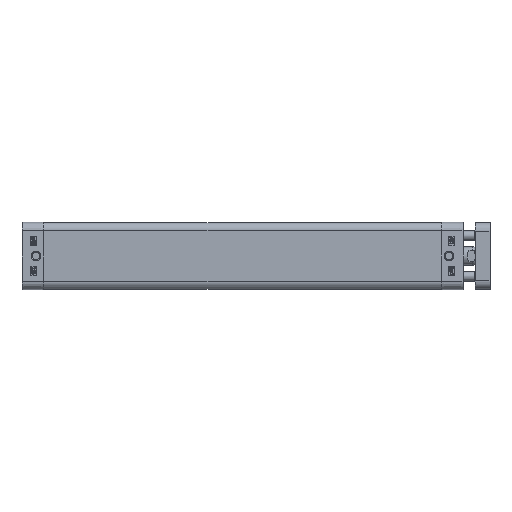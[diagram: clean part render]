
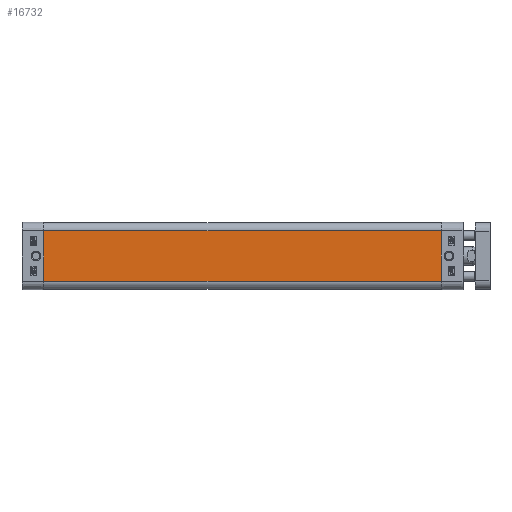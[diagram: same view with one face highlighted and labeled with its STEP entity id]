
A CAD part, left-side view. The second image highlights one B-rep face of the part: STEP entity #16732.
In plain terms, the highlighted planar face has unit normal (-1, 0, 0).
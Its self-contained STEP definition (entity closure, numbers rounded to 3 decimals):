
#548=PLANE('',#17743);
#4046=ORIENTED_EDGE('',*,*,#5968,.T.);
#4047=ORIENTED_EDGE('',*,*,#6134,.T.);
#4048=ORIENTED_EDGE('',*,*,#6135,.T.);
#4049=ORIENTED_EDGE('',*,*,#6024,.F.);
#5968=EDGE_CURVE('',#7302,#7303,#8394,.T.);
#6024=EDGE_CURVE('',#7302,#7358,#8422,.T.);
#6134=EDGE_CURVE('',#7303,#7413,#8504,.T.);
#6135=EDGE_CURVE('',#7413,#7358,#8505,.T.);
#7302=VERTEX_POINT('',#25102);
#7303=VERTEX_POINT('',#25103);
#7358=VERTEX_POINT('',#25215);
#7413=VERTEX_POINT('',#25433);
#8394=LINE('',#25101,#9406);
#8422=LINE('',#25214,#9434);
#8504=LINE('',#25434,#9516);
#8505=LINE('',#25436,#9517);
#9406=VECTOR('',#20214,1000.);
#9434=VECTOR('',#20300,1000.);
#9516=VECTOR('',#20546,1000.);
#9517=VECTOR('',#20549,1000.);
#10367=EDGE_LOOP('',(#4046,#4047,#4048,#4049));
#11307=FACE_BOUND('',#10367,.T.);
#16732=ADVANCED_FACE('',(#11307),#548,.T.);
#17743=AXIS2_PLACEMENT_3D('',#25435,#20547,#20548);
#20214=DIRECTION('',(0.,0.,-1.));
#20300=DIRECTION('',(0.,-1.,0.));
#20546=DIRECTION('',(0.,-1.,0.));
#20547=DIRECTION('',(-1.,0.,0.));
#20548=DIRECTION('',(0.,0.,1.));
#20549=DIRECTION('',(0.,0.,1.));
#25101=CARTESIAN_POINT('',(-18.,9.25,13.5));
#25102=CARTESIAN_POINT('',(-18.,9.25,13.5));
#25103=CARTESIAN_POINT('',(-18.,9.25,-13.5));
#25214=CARTESIAN_POINT('',(-18.,9.25,13.5));
#25215=CARTESIAN_POINT('',(-18.,-204.15,13.5));
#25433=CARTESIAN_POINT('',(-18.,-204.15,-13.5));
#25434=CARTESIAN_POINT('',(-18.,9.25,-13.5));
#25435=CARTESIAN_POINT('',(-18.,0.,13.5));
#25436=CARTESIAN_POINT('',(-18.,-204.15,-13.5));
